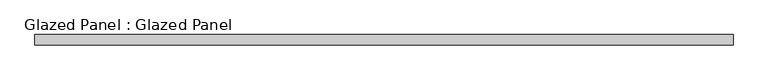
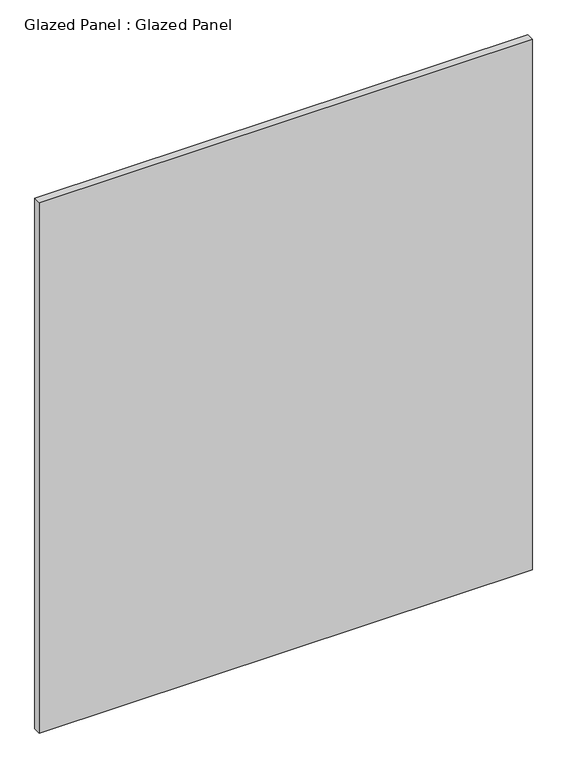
"""IFC4 building model written with IfcOpenShell, lengths in millimetres: plate geometry, Glazed Panel : Glazed Panel."""

from ifc_helpers import new_model, si_unit, origin, origin_with_axes, place, context, project, spatial, polyline, outline, extrude, source, transform, mapped, element, save


def glazed_panel_glazed_panel_805796bc(model_context):
    return source(origin(), model_context, "Body", "SweptSolid", [
        extrude(outline(polyline([(851.7623557, -38.1), (851.7623557, -63.5), (-851.7623557, -63.5), (-851.7623557, -38.1), (851.7623557, -38.1)])), origin_with_axes(), (0.0, 0.0, 1.0), 1936.75),
    ])


if __name__ == "__main__":
    model = new_model("IFC4")
    model_context = context("Model", 3, world=origin())
    ifc_project = project(units=[si_unit("LENGTHUNIT", "METRE", prefix="MILLI")], contexts=[model_context])
    site = spatial("IfcSite", under=ifc_project)
    building = spatial("IfcBuilding", under=site)
    placement = place(None, origin())
    glazed_panel_glazed_panel_shape = glazed_panel_glazed_panel_805796bc(model_context)
    element("IfcPlate", 1, ObjectType="Glazed Panel : Glazed Panel", at=placement, inside=building, context=model_context, shape_type="MappedRepresentation", body=[
        mapped(glazed_panel_glazed_panel_shape, transform((0.0, 0.0, 0.0), x_axis=(1.0, 0.0, 0.0), y_axis=(0.0, 1.0, 0.0), z_axis=(0.0, 0.0, 1.0))),
    ])
    save(model, "model.ifc")
